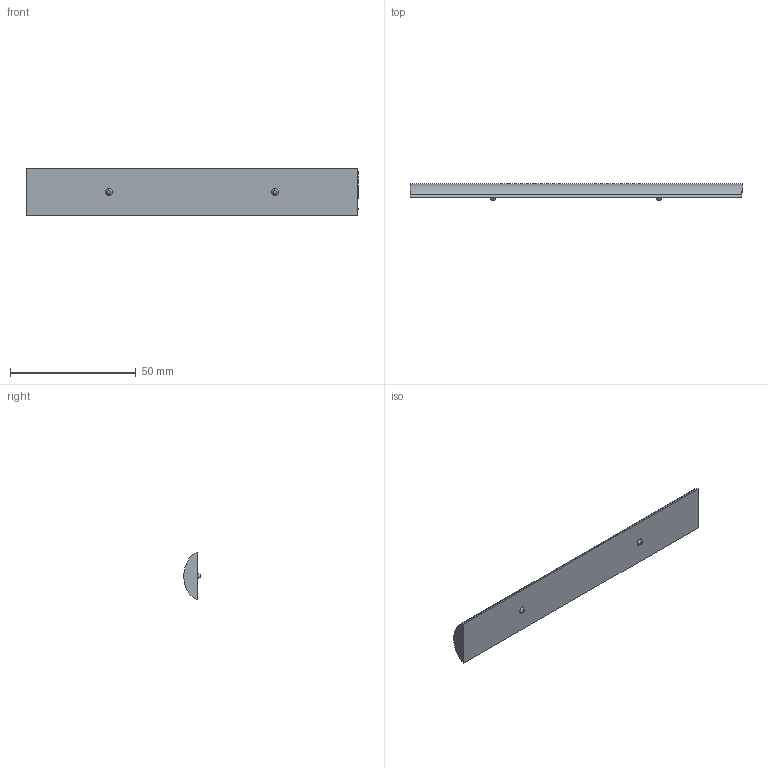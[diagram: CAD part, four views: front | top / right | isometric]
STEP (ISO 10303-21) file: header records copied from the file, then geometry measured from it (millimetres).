
FILE_DESCRIPTION (( 'STEP AP214' ), '1' );
FILE_NAME ('Handle_Shim.STEP', '2015-02-28T17:29:01', ( '' ), ( '' ), '', '', '' );
FILE_SCHEMA (( '' ));
Length unit declared in the file: millimetre
Products named in the file (1): Handle_Shim
Bounding box: 132 x 6.48 x 19.03 mm (x, y, z)
Volume: 10208.3 mm3; surface area: 5752.9 mm2
Topology: 1 solids, 1 shells, 11 faces, 21 edges, 14 vertices
Faces by surface type: plane 6, cone 4, bspline 1
Entity records: 309 total; most frequent: CARTESIAN_POINT 60, DIRECTION 49, ORIENTED_EDGE 42, EDGE_CURVE 21, AXIS2_PLACEMENT_3D 19, VERTEX_POINT 14, EDGE_LOOP 13, ADVANCED_FACE 11
